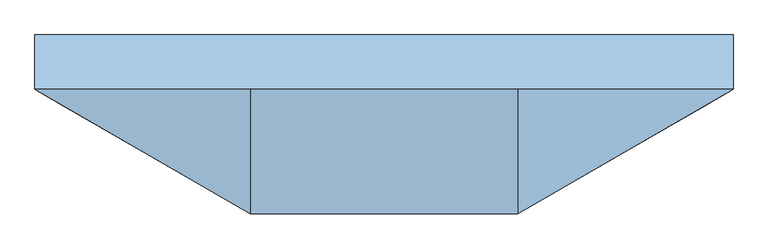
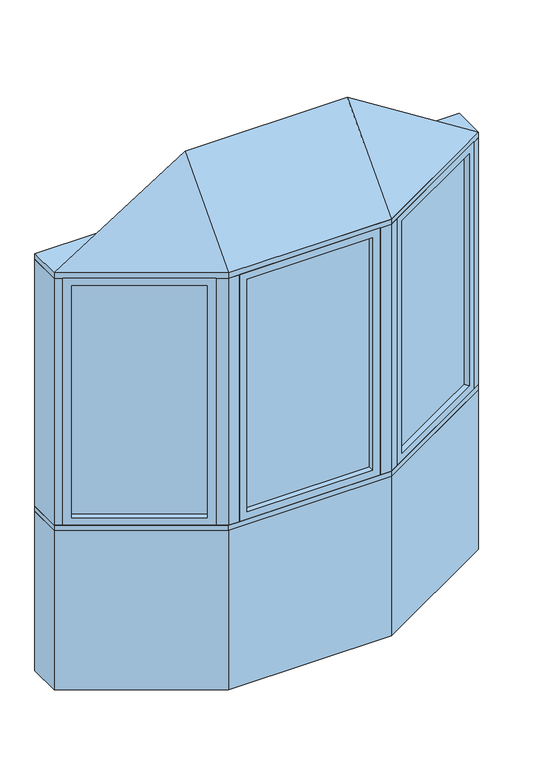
"""IFC4 building model written with IfcOpenShell, lengths in millimetres: window geometry, Pollard_Windows_Tudor Casement Bows and Bays : AML-BAY 30 AFR0612-08-600."""

from ifc_helpers import new_model, si_unit, frame, origin, origin_with_axes, place, context, project, spatial, polyline, outline, extrude, faceted_brep, source, transform, mapped, element, save


def window_12510623(model_context):
    return source(origin(), model_context, "Body", "SolidModel", [
        extrude(outline(polyline([(913.112102, -82.0482469), (424.8834764, -363.9271754), (422.3434764, -359.5277664), (910.572102, -77.6488379), (913.112102, -82.0482469)])), frame((0.0, 0.0, 823.1628), z_axis=(0.0, 0.0, 1.0), x_axis=(1.0, 0.0, 0.0)), (0.0, 0.0, 1.0), 1153.6704),
        faceted_brep([(902.1135794, -88.3982469, 835.8628), (914.8135794, -110.3952922, 835.8628), (914.8135794, -110.3952922, 1964.1332), (902.1135794, -88.3982469, 1964.1332), (910.572102, -77.6488379, 823.1628), (913.112102, -82.0482469, 823.1628), (913.112102, -82.0482469, 1976.8332), (910.572102, -77.6488379, 1976.8332), (886.8735794, -62.0017926, 835.8628), (899.5735794, -83.9988379, 835.8628), (899.5735794, -83.9988379, 1964.1332), (886.8735794, -62.0017926, 1964.1332), (945.8734073, -92.4628922, 799.998), (917.9334073, -44.0693926, 799.998), (917.9334073, -44.0693926, 1999.998), (945.8734073, -92.4628922, 1999.998), (448.581999, -379.5742207, 1964.1332), (435.881999, -357.5771754, 1964.1332), (424.8834764, -363.9271754, 1976.8332), (422.3434764, -359.5277664, 1976.8332), (433.341999, -353.1777664, 1964.1332), (420.641999, -331.1807211, 1964.1332), (389.5821711, -349.1131211, 1999.998), (417.5221711, -397.5066207, 1999.998), (448.581999, -379.5742207, 835.8628), (435.881999, -357.5771754, 835.8628), (424.8834764, -363.9271754, 823.1628), (422.3434764, -359.5277664, 823.1628), (433.341999, -353.1777664, 835.8628), (420.641999, -331.1807211, 835.8628), (389.5821711, -349.1131211, 799.998), (417.5221711, -397.5066207, 799.998)], [[[0, 1, 2, 3]], [[4, 5, 6, 7]], [[8, 9, 10, 11]], [[12, 13, 14, 15]], [[3, 2, 16, 17]], [[7, 6, 18, 19]], [[11, 10, 20, 21]], [[15, 14, 22, 23]], [[17, 16, 24, 25]], [[19, 18, 26, 27]], [[21, 20, 28, 29]], [[23, 22, 30, 31]], [[25, 24, 1, 0]], [[5, 26, 18, 6], [3, 17, 25, 0]], [[27, 26, 5, 4]], [[7, 19, 27, 4], [9, 28, 20, 10]], [[29, 28, 9, 8]], [[13, 30, 22, 14], [11, 21, 29, 8]], [[31, 30, 13, 12]], [[15, 23, 31, 12], [1, 24, 16, 2]]]),
        extrude(outline(polyline([(-424.8834764, -363.9271754), (-913.112102, -82.0482469), (-910.572102, -77.6488379), (-422.3434764, -359.5277664), (-424.8834764, -363.9271754)])), frame((0.0, 0.0, 823.1628), z_axis=(0.0, 0.0, 1.0), x_axis=(1.0, 0.0, 0.0)), (0.0, 0.0, 1.0), 1153.6704),
        faceted_brep([(-433.341999, -353.1777664, 1964.1332), (-420.641999, -331.1807211, 1964.1332), (-420.641999, -331.1807211, 835.8628), (-433.341999, -353.1777664, 835.8628), (-424.8834764, -363.9271754, 1976.8332), (-422.3434764, -359.5277664, 1976.8332), (-422.3434764, -359.5277664, 823.1628), (-424.8834764, -363.9271754, 823.1628), (-448.581999, -379.5742207, 1964.1332), (-435.881999, -357.5771754, 1964.1332), (-435.881999, -357.5771754, 835.8628), (-448.581999, -379.5742207, 835.8628), (-389.5821711, -349.1131211, 1999.998), (-417.5221711, -397.5066207, 1999.998), (-417.5221711, -397.5066207, 799.998), (-389.5821711, -349.1131211, 799.998), (-886.8735794, -62.0017926, 835.8628), (-899.5735794, -83.9988379, 835.8628), (-910.572102, -77.6488379, 823.1628), (-913.112102, -82.0482469, 823.1628), (-902.1135794, -88.3982469, 835.8628), (-914.8135794, -110.3952922, 835.8628), (-945.8734073, -92.4628922, 799.998), (-917.9334073, -44.0693926, 799.998), (-886.8735794, -62.0017926, 1964.1332), (-899.5735794, -83.9988379, 1964.1332), (-910.572102, -77.6488379, 1976.8332), (-913.112102, -82.0482469, 1976.8332), (-902.1135794, -88.3982469, 1964.1332), (-914.8135794, -110.3952922, 1964.1332), (-945.8734073, -92.4628922, 1999.998), (-917.9334073, -44.0693926, 1999.998)], [[[0, 1, 2, 3]], [[4, 5, 6, 7]], [[8, 9, 10, 11]], [[12, 13, 14, 15]], [[3, 2, 16, 17]], [[7, 6, 18, 19]], [[11, 10, 20, 21]], [[15, 14, 22, 23]], [[17, 16, 24, 25]], [[19, 18, 26, 27]], [[21, 20, 28, 29]], [[23, 22, 30, 31]], [[15, 23, 31, 12], [1, 24, 16, 2]], [[25, 24, 1, 0]], [[5, 26, 18, 6], [3, 17, 25, 0]], [[27, 26, 5, 4]], [[7, 19, 27, 4], [9, 28, 20, 10]], [[29, 28, 9, 8]], [[13, 30, 22, 14], [11, 21, 29, 8]], [[31, 30, 13, 12]]]),
        extrude(outline(polyline([(301.0561009, -397.1066207), (-301.0561009, -397.1066207), (-301.0561009, -392.0266207), (301.0561009, -392.0266207), (301.0561009, -397.1066207)])), frame((0.0, 0.0, 823.1628), z_axis=(0.0, 0.0, 1.0), x_axis=(1.0, 0.0, 0.0)), (0.0, 0.0, 1.0), 1153.6704),
        faceted_brep([(288.3561009, -397.1066207, 835.8628), (288.3561009, -422.5066207, 835.8628), (288.3561009, -422.5066207, 1964.1332), (288.3561009, -397.1066207, 1964.1332), (301.0561009, -392.0266207, 823.1628), (301.0561009, -397.1066207, 823.1628), (301.0561009, -397.1066207, 1976.8332), (301.0561009, -392.0266207, 1976.8332), (288.3561009, -366.6266207, 835.8628), (288.3561009, -392.0266207, 835.8628), (288.3561009, -392.0266207, 1964.1332), (288.3561009, -366.6266207, 1964.1332), (324.2209009, -422.5066207, 799.998), (324.2209009, -366.6266207, 799.998), (324.2209009, -366.6266207, 1999.998), (324.2209009, -422.5066207, 1999.998), (-288.3561009, -422.5066207, 1964.1332), (-288.3561009, -397.1066207, 1964.1332), (-301.0561009, -397.1066207, 1976.8332), (-301.0561009, -392.0266207, 1976.8332), (-288.3561009, -392.0266207, 1964.1332), (-288.3561009, -366.6266207, 1964.1332), (-324.2209009, -366.6266207, 1999.998), (-324.2209009, -422.5066207, 1999.998), (-288.3561009, -422.5066207, 835.8628), (-288.3561009, -397.1066207, 835.8628), (-301.0561009, -397.1066207, 823.1628), (-301.0561009, -392.0266207, 823.1628), (-288.3561009, -392.0266207, 835.8628), (-288.3561009, -366.6266207, 835.8628), (-324.2209009, -366.6266207, 799.998), (-324.2209009, -422.5066207, 799.998)], [[[0, 1, 2, 3]], [[4, 5, 6, 7]], [[8, 9, 10, 11]], [[12, 13, 14, 15]], [[3, 2, 16, 17]], [[7, 6, 18, 19]], [[11, 10, 20, 21]], [[15, 14, 22, 23]], [[17, 16, 24, 25]], [[19, 18, 26, 27]], [[21, 20, 28, 29]], [[23, 22, 30, 31]], [[15, 23, 31, 12], [1, 24, 16, 2]], [[25, 24, 1, 0]], [[5, 26, 18, 6], [3, 17, 25, 0]], [[27, 26, 5, 4]], [[7, 19, 27, 4], [9, 28, 20, 10]], [[29, 28, 9, 8]], [[13, 30, 22, 14], [11, 21, 29, 8]], [[31, 30, 13, 12]]]),
        faceted_brep([(976.5, -74.7806207, 2025.398), (374.2209009, -422.5066207, 2025.398), (-374.2209009, -422.5066207, 2025.398), (-976.5, -74.7806207, 2025.398), (-374.2209009, -74.7806207, 2406.398), (374.2209009, -74.7806207, 2406.398)], [[[0, 1, 2, 3]], [[3, 2, 4]], [[2, 1, 5, 4]], [[1, 0, 5]], [[0, 3, 4, 5]]]),
        extrude(outline(polyline([(-976.5, 77.6193793), (976.5, 77.6193793), (976.5, -74.7806207), (374.2209009, -422.5066207), (-374.2209009, -422.5066207), (-976.5, -74.7806207), (-976.5, 77.6193793)])), frame((0.0, 0.0, 1999.998), z_axis=(0.0, 0.0, 1.0), x_axis=(1.0, 0.0, 0.0)), (0.0, 0.0, 1.0), 25.4),
        extrude(outline(polyline([(-976.5, -74.7806207), (-976.5, 77.6193793), (-935.6645431, 77.6193793), (-935.6645431, -74.7806207), (-945.8734073, -92.4628922), (-976.5, -74.7806207)])), frame((0.0, 0.0, 799.998), z_axis=(0.0, 0.0, 1.0), x_axis=(1.0, 0.0, 0.0)), (0.0, 0.0, 1.0), 1200.0),
        extrude(outline(polyline([(976.5, 77.6193793), (976.5, -74.7806207), (945.8734073, -92.4628922), (935.6645431, -74.7806207), (935.6645431, 77.6193793), (976.5, 77.6193793)])), frame((0.0, 0.0, 799.998), z_axis=(0.0, 0.0, 1.0), x_axis=(1.0, 0.0, 0.0)), (0.0, 0.0, 1.0), 1200.0),
        extrude(outline(polyline([(374.2209009, -422.5066207), (324.2209009, -422.5066207), (324.2209009, -372.5066207), (360.8234413, -372.5066207), (392.5221711, -354.2053505), (417.5221711, -397.5066207), (374.2209009, -422.5066207)])), frame((0.0, 0.0, 799.998), z_axis=(0.0, 0.0, 1.0), x_axis=(1.0, 0.0, 0.0)), (0.0, 0.0, 1.0), 1200.0),
        extrude(outline(polyline([(-374.2209009, -422.5066207), (-417.5221711, -397.5066207), (-392.5221711, -354.2053505), (-360.8234413, -372.5066207), (-324.2209009, -372.5066207), (-324.2209009, -422.5066207), (-374.2209009, -422.5066207)])), frame((0.0, 0.0, 799.998), z_axis=(0.0, 0.0, 1.0), x_axis=(1.0, 0.0, 0.0)), (0.0, 0.0, 1.0), 1200.0),
        extrude(outline(polyline([(-374.2209009, -422.5066207), (-976.5, -74.7806207), (-976.5, 77.6193793), (-935.6645431, 77.6193793), (-333.385444, -270.1066207), (333.385444, -270.1066207), (935.6645431, 77.6193793), (976.5, 77.6193793), (976.5, -74.7806207), (374.2209009, -422.5066207), (-374.2209009, -422.5066207)])), frame((0.0, 0.0, 774.598), z_axis=(0.0, 0.0, 1.0), x_axis=(1.0, 0.0, 0.0)), (0.0, 0.0, 1.0), 25.4),
        extrude(outline(polyline([(-976.5, -74.7806207), (-976.5, 77.6193793), (-935.6645431, 77.6193793), (-333.385444, -270.1066207), (333.385444, -270.1066207), (935.6645431, 77.6193793), (976.5, 77.6193793), (976.5, -74.7806207), (374.2209009, -422.5066207), (-374.2209009, -422.5066207), (-976.5, -74.7806207)])), origin_with_axes(), (0.0, 0.0, 1.0), 774.598),
    ])


if __name__ == "__main__":
    model = new_model("IFC4")
    model_context = context("Model", 3, world=origin())
    ifc_project = project(units=[si_unit("LENGTHUNIT", "METRE", prefix="MILLI")], contexts=[model_context])
    site = spatial("IfcSite", under=ifc_project)
    building = spatial("IfcBuilding", under=site)
    placement = place(None, origin())
    window_shape = window_12510623(model_context)
    element("IfcWindow", 1, ObjectType="Pollard_Windows_Tudor Casement Bows and Bays : AML-BAY 30 AFR0612-08-600", at=placement, inside=building, context=model_context, shape_type="MappedRepresentation", body=[
        mapped(window_shape, transform((0.0, 0.0, 0.0), x_axis=(1.0, 0.0, 0.0), y_axis=(0.0, 1.0, 0.0), z_axis=(0.0, 0.0, 1.0))),
    ])
    save(model, "model.ifc")
